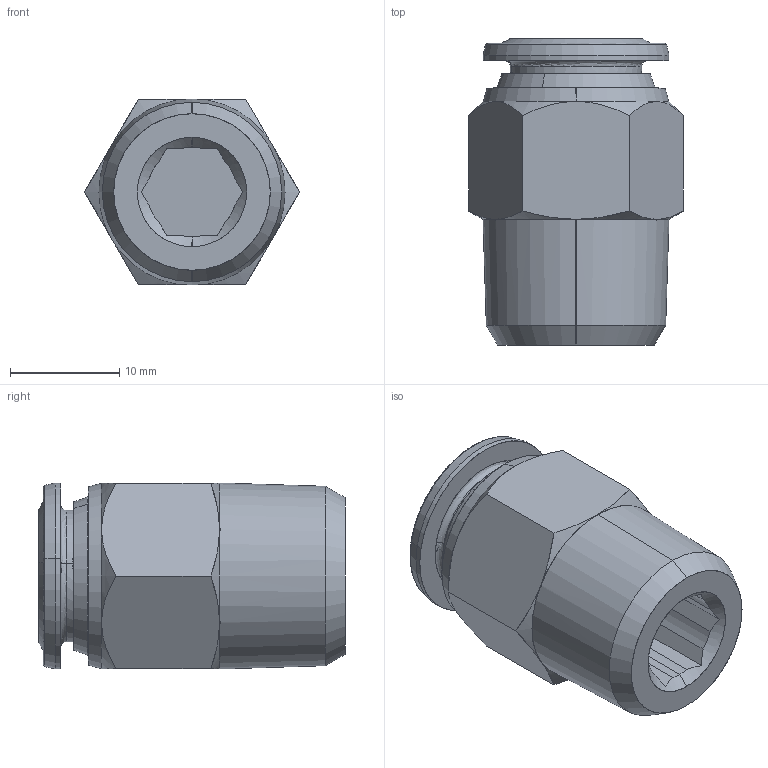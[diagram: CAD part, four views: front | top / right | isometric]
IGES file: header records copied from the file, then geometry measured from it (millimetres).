
Start section: SolidWorks IGES file using analytic representation for surfaces
Global section: file name: K:\Disegni Esecutivi\Serie 60000 inox 316\ASSIEMI_60000\60000\ASSIEMI_PIENI_60000\6000000008.IGS; native system: SolidWorks 2008; preprocessor: SolidWorks 2008; author: cad02; date: 080229.163024; units: millimetre
Bounding box: 19.63 x 28 x 17 mm (x, y, z)
Surface area: 2477.8 mm2 (no closed solid volume)
Topology: 0 solids, 0 shells, 96 faces, 1097 edges, 1095 vertices
Faces by surface type: bspline 49, revolution 47
